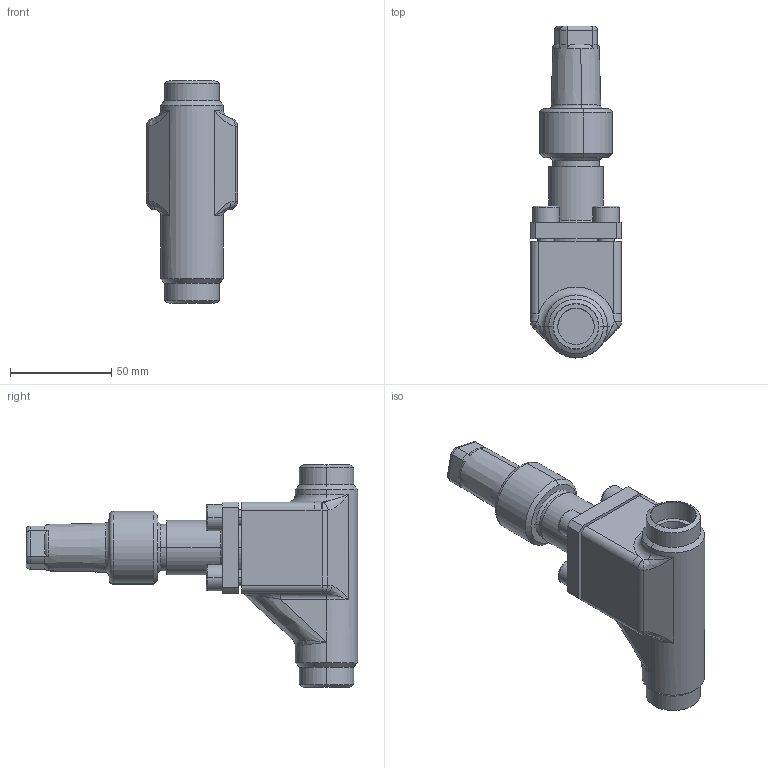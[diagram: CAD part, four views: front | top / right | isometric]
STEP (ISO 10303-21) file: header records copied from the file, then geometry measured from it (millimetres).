
FILE_DESCRIPTION (( 'STEP AP214' ), '1' );
FILE_NAME ('AVR96300-DN020_R1_PS40.STEP', '2006-05-02T07:48:19', ( 'Herr Grams' ), ( 'AWP GmbH' ), 'SwSTEP 2.0', 'SolidWorks 2002296', '' );
FILE_SCHEMA (( 'AUTOMOTIVE_DESIGN' ));
Length unit declared in the file: millimetre
Products named in the file (6): AVR96300-DN020_R1_PS40; AVR96300E11_Deck+Schr-DN20_Standard; Deckel96300E11-DN20_PS40_Standard; Zylinderschraube-DIN912_M 8x 20; Gehäuse96300E11-DN20_PS40_R1_Standard; Kappe96300E10_DN6-20_Standard
Assembly tree (8 placements, depth 3):
  AVR96300-DN020_R1_PS40
    Gehäuse96300E11-DN20_PS40_R1_Standard
    Kappe96300E10_DN6-20_Standard
    AVR96300E11_Deck+Schr-DN20_Standard
      Zylinderschraube-DIN912_M 8x 20  x4
      Deckel96300E11-DN20_PS40_Standard
Bounding box: 45 x 164 x 110 mm (x, y, z)
Volume: 182816.8 mm3; surface area: 52022.2 mm2
Topology: 7 solids, 7 shells, 258 faces, 572 edges, 343 vertices
Faces by surface type: cylinder 97, plane 86, torus 28, cone 28, bspline 13, sphere 6
Entity records: 17225 total; most frequent: CARTESIAN_POINT 12016, DIRECTION 997, ORIENTED_EDGE 904, EDGE_CURVE 452, AXIS2_PLACEMENT_3D 415, VERTEX_POINT 271, EDGE_LOOP 231, CIRCLE 212
